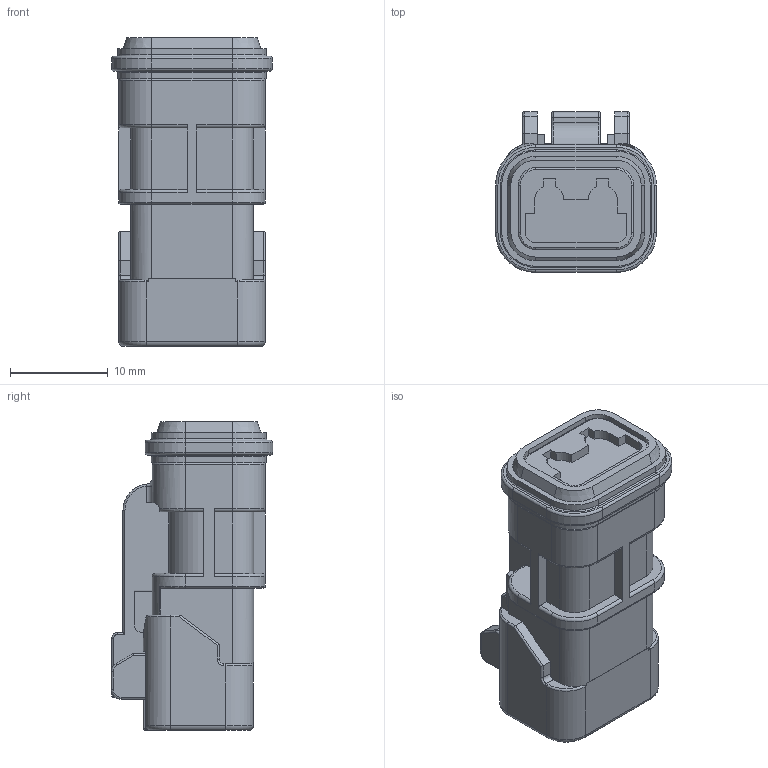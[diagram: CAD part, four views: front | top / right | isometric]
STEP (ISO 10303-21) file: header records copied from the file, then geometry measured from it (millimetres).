
FILE_DESCRIPTION((''),'2;1');
FILE_NAME('C-2286003-3','2015-06-26T',('workeradm'),('Tyco Electronics Ltd.'),'PRO/ENGINEER BY PARAMETRIC TECHNOLOGY CORPORATION, 2014090','PRO/ENGINEER BY PARAMETRIC TECHNOLOGY CORPORATION, 2014090','');
FILE_SCHEMA(('AUTOMOTIVE_DESIGN { 1 0 10303 214 1 1 1 1 }'));
Length unit declared in the file: millimetre
Products named in the file (1): C-2286003-3
Bounding box: 16.47 x 16.51 x 31.6 mm (x, y, z)
Volume: 4863.6 mm3; surface area: 2499.1 mm2
Topology: 1 solids, 1 shells, 379 faces, 958 edges, 590 vertices
Faces by surface type: plane 153, cylinder 152, torus 58, sphere 8, cone 4, bspline 4
Entity records: 11844 total; most frequent: CARTESIAN_POINT 2411, DIRECTION 2014, ORIENTED_EDGE 1916, EDGE_CURVE 958, AXIS2_PLACEMENT_3D 729, VERTEX_POINT 590, VECTOR 556, LINE 556
